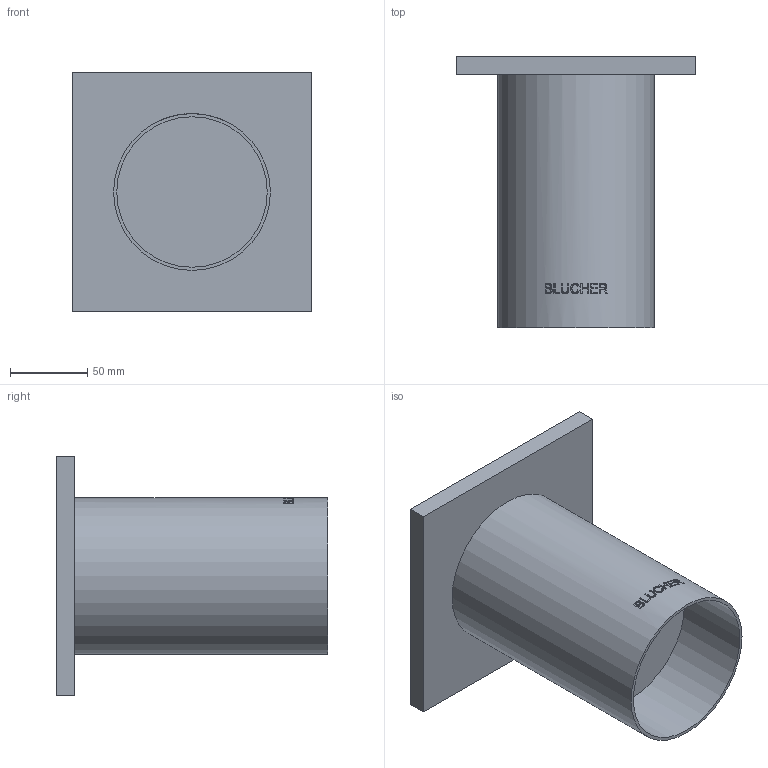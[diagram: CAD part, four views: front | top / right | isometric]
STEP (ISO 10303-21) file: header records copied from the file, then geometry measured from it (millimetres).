
FILE_DESCRIPTION((''),'2;1');
FILE_NAME('C:\Drawings\3D_CAD_Models\Blucher\BCO_Clean Outs_Complete_091119\BCO-100\WebsiteFiles\3D\STEP\BCO-134.stp','2009-11-23T14:13:14',('hofmansp'),(''),'Autodesk Inventor 2010','Autodesk Inventor 2010','');
FILE_SCHEMA(('AUTOMOTIVE_DESIGN { 1 0 10303 214 1 1 1 1 }'));
Length unit declared in the file: inch
Products named in the file (1): BCO-134
Bounding box: 154.94 x 176.02 x 154.94 mm (x, y, z)
Volume: 1237284.4 mm3; surface area: 123409.3 mm2
Topology: 1 solids, 1 shells, 108 faces, 282 edges, 188 vertices
Faces by surface type: plane 62, bspline 34, cylinder 12
Full cylindrical faces by diameter (mm): 97.536 x1, 101.6 x1
Entity records: 13802 total; most frequent: CARTESIAN_POINT 11404, ORIENTED_EDGE 560, DIRECTION 356, EDGE_CURVE 280, VERTEX_POINT 188, VECTOR 128, LINE 128, EDGE_LOOP 122
